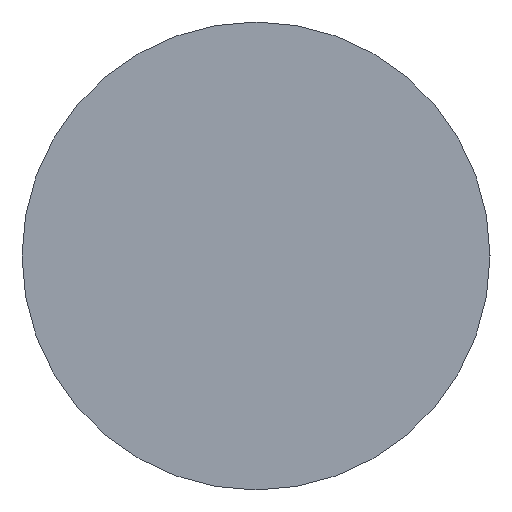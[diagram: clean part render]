
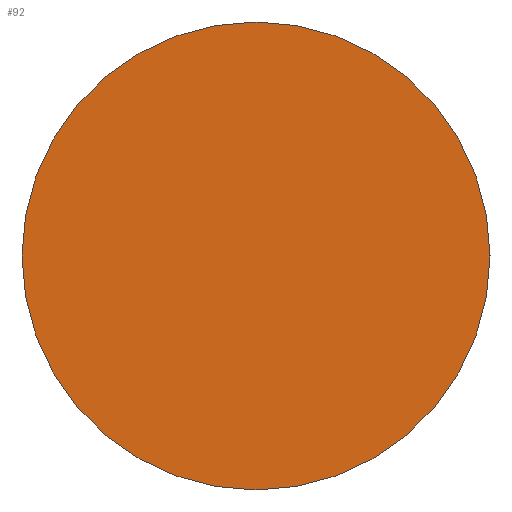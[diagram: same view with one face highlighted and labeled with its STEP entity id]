
A CAD part, left-side view. The second image highlights one B-rep face of the part: STEP entity #92.
In plain terms, the highlighted planar face has unit normal (-1, 0, 0).
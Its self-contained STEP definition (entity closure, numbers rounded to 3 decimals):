
#10 = DIRECTION ( 'NONE',  ( 0., 1., 0. ) ) ;
#11 = CARTESIAN_POINT ( 'NONE',  ( 0., 0., 0. ) ) ;
#34 = CARTESIAN_POINT ( 'NONE',  ( 0., 0., 0. ) ) ;
#41 = ORIENTED_EDGE ( 'NONE', *, *, #234, .F. ) ;
#56 = CARTESIAN_POINT ( 'NONE',  ( 0., 1.5, 0. ) ) ;
#67 = VERTEX_POINT ( 'NONE', #56 ) ;
#80 = FACE_OUTER_BOUND ( 'NONE', #169, .T. ) ;
#88 = ORIENTED_EDGE ( 'NONE', *, *, #110, .F. ) ;
#92 = ADVANCED_FACE ( 'NONE', ( #80 ), #219, .T. ) ;
#93 = DIRECTION ( 'NONE',  ( 1., 0., 0. ) ) ;
#94 = DIRECTION ( 'NONE',  ( -1., 0., 0. ) ) ;
#110 = EDGE_CURVE ( 'NONE', #67, #256, #144, .T. ) ;
#117 = AXIS2_PLACEMENT_3D ( 'NONE', #11, #93, #10 ) ;
#144 = CIRCLE ( 'NONE', #173, 1.5 ) ;
#167 = DIRECTION ( 'NONE',  ( 0., -1., 0. ) ) ;
#169 = EDGE_LOOP ( 'NONE', ( #88, #41 ) ) ;
#173 = AXIS2_PLACEMENT_3D ( 'NONE', #34, #262, #230 ) ;
#201 = CARTESIAN_POINT ( 'NONE',  ( 0., -1.5, 0. ) ) ;
#219 = PLANE ( 'NONE',  #257 ) ;
#230 = DIRECTION ( 'NONE',  ( 0., 1., 0. ) ) ;
#234 = EDGE_CURVE ( 'NONE', #256, #67, #237, .T. ) ;
#237 = CIRCLE ( 'NONE', #117, 1.5 ) ;
#256 = VERTEX_POINT ( 'NONE', #201 ) ;
#257 = AXIS2_PLACEMENT_3D ( 'NONE', #268, #94, #167 ) ;
#262 = DIRECTION ( 'NONE',  ( 1., 0., 0. ) ) ;
#268 = CARTESIAN_POINT ( 'NONE',  ( 0., 0., 0. ) ) ;
